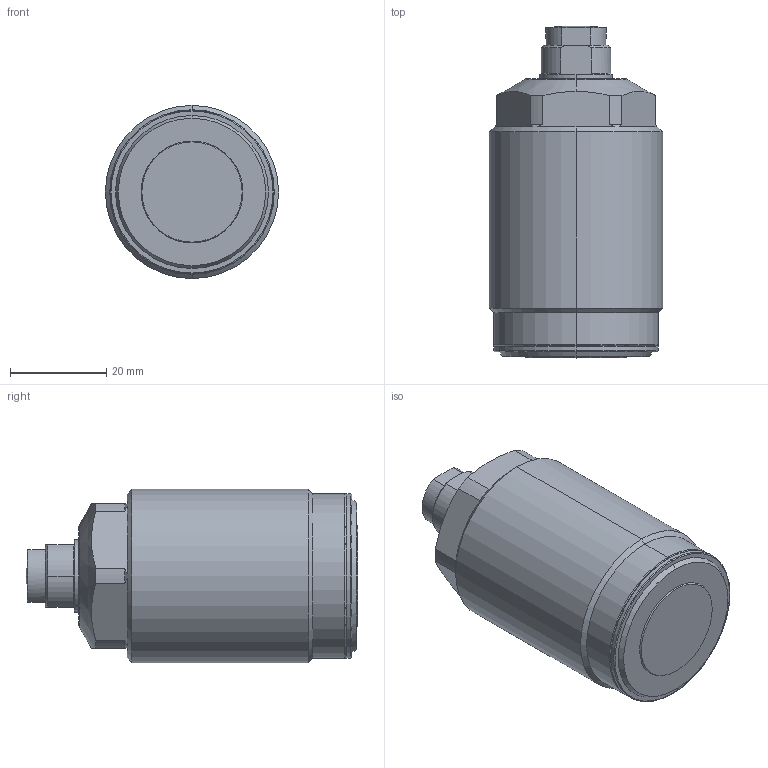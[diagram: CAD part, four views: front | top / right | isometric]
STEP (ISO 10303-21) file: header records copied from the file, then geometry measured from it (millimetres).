
FILE_DESCRIPTION(/* description */ (''),/* implementation_level */ '2;1');
FILE_NAME(/* name */ 'TSC04.stp',/* time_stamp */ '2022-11-16T14:40:56+08:00',/* author */ (''),/* organization */ (''),/* preprocessor_version */ 'ST-DEVELOPER v16.7',/* originating_system */ 'SIEMENS PLM Software NX 12.0',/* authorisation */ '');
FILE_SCHEMA (('AP203_CONFIGURATION_CONTROLLED_3D_DESIGN_OF_MECHANICAL_PARTS_AND_ASSEMBLIES_MIM_LF { 1 0 10303 403 2 1 2}'));
Length unit declared in the file: millimetre
Products named in the file (4): TSC04-01; TSC04-03; TSC04-02; CSY04_step
Assembly tree (3 placements, depth 2):
  CSY04_step
    TSC04-02
    TSC04-03
    TSC04-01
Bounding box: 36 x 69 x 36 mm (x, y, z)
Volume: 55675.4 mm3; surface area: 10441.2 mm2
Topology: 3 solids, 3 shells, 108 faces, 250 edges, 155 vertices
Faces by surface type: cylinder 35, plane 30, cone 23, torus 18, sphere 2
Entity records: 3581 total; most frequent: CARTESIAN_POINT 609, DIRECTION 590, ORIENTED_EDGE 500, AXIS2_PLACEMENT_3D 256, EDGE_CURVE 250, VERTEX_POINT 155, CIRCLE 144, EDGE_LOOP 117
